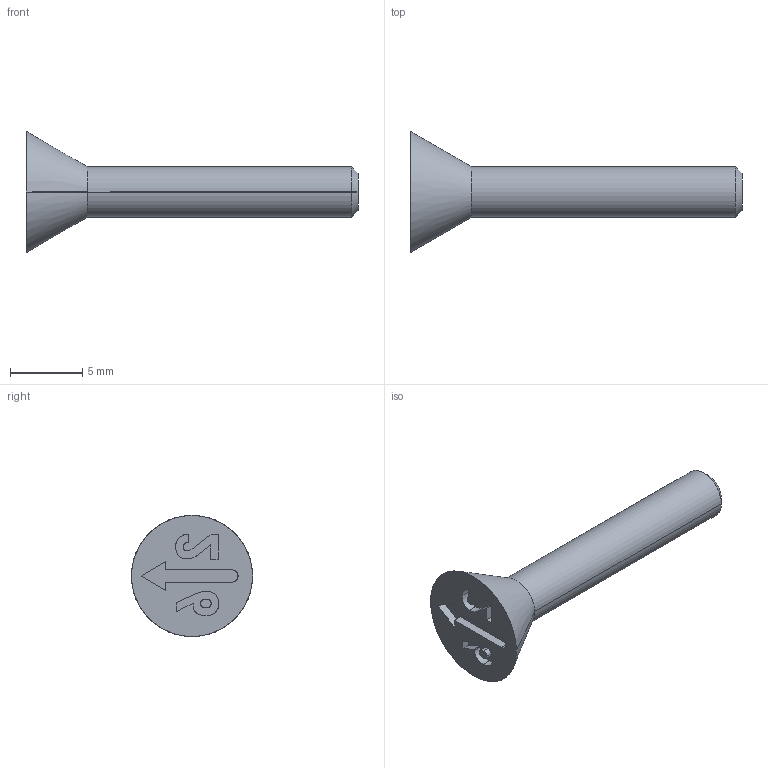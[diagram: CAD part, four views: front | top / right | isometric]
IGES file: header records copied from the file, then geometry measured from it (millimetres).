
Start section: SolidWorks IGES file using analytic representation for surfaces
Global section: file name: C:\temp\GO\Files\DTPRP16-26.igs; native system: SolidWorks 2023; preprocessor: SolidWorks 2023; author: andrew.sweeney; date: 250411.163455; units: millimetre
Bounding box: 23 x 8.4 x 8.4 mm (x, y, z)
Surface area: 382.5 mm2 (no closed solid volume)
Topology: 0 solids, 0 shells, 52 faces, 543 edges, 543 vertices
Faces by surface type: bspline 45, revolution 7
